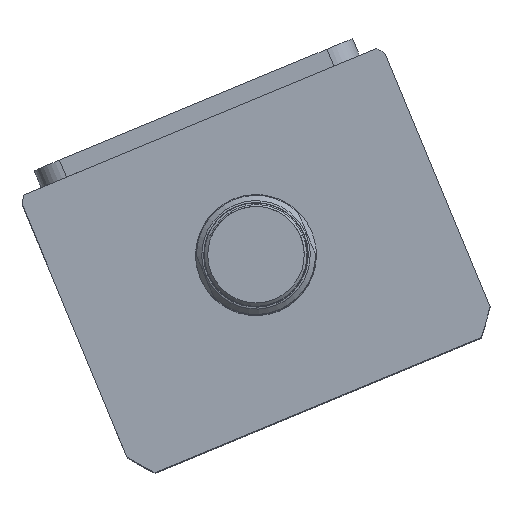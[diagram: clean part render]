
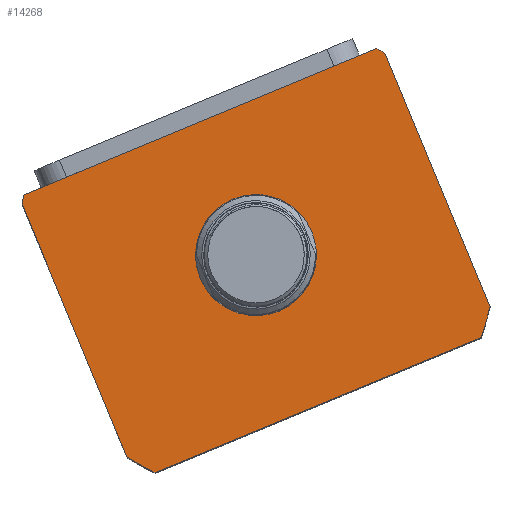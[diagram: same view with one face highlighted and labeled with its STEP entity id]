
A CAD part, top view. The second image highlights one B-rep face of the part: STEP entity #14268.
In plain terms, the highlighted planar face has unit normal (0, 0, 1) as drawn and (0, 0, -1) by its records, which use the part's own axes.
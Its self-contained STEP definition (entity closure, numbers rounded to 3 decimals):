
#179 = CIRCLE ( 'NONE', #23450, 17.5 ) ;
#397 = DIRECTION ( 'NONE',  ( 0., 0., 1. ) ) ;
#823 = DIRECTION ( 'NONE',  ( 0., 0., 1. ) ) ;
#873 = DIRECTION ( 'NONE',  ( 1., 0., 0. ) ) ;
#1564 = EDGE_CURVE ( 'NONE', #27111, #10542, #20604, .T. ) ;
#2498 = EDGE_CURVE ( 'NONE', #24327, #16265, #15159, .T. ) ;
#2775 = EDGE_CURVE ( 'NONE', #25063, #27111, #17525, .T. ) ;
#2797 = CARTESIAN_POINT ( 'NONE',  ( 17.5, 2.5, 0. ) ) ;
#2804 = DIRECTION ( 'NONE',  ( -1., 0., 0. ) ) ;
#2845 = VECTOR ( 'NONE', #24843, 1000. ) ;
#3022 = LINE ( 'NONE', #20268, #19732 ) ;
#4442 = CARTESIAN_POINT ( 'NONE',  ( 0., 2.5, 0. ) ) ;
#4801 = VERTEX_POINT ( 'NONE', #2797 ) ;
#4881 = AXIS2_PLACEMENT_3D ( 'NONE', #24628, #26607, #24810 ) ;
#5182 = CARTESIAN_POINT ( 'NONE',  ( 0., 0., 0. ) ) ;
#5197 = VECTOR ( 'NONE', #21365, 1000. ) ;
#5313 = ORIENTED_EDGE ( 'NONE', *, *, #1564, .F. ) ;
#5325 = CARTESIAN_POINT ( 'NONE',  ( -51.198, -44.5, 0. ) ) ;
#5544 = CARTESIAN_POINT ( 'NONE',  ( -57., -44.5, 0. ) ) ;
#5998 = CARTESIAN_POINT ( 'NONE',  ( 0., 2.5, 0. ) ) ;
#6027 = CARTESIAN_POINT ( 'NONE',  ( -55.374, 44.5, 0. ) ) ;
#6171 = VERTEX_POINT ( 'NONE', #6027 ) ;
#6172 = CARTESIAN_POINT ( 'NONE',  ( -57., 44.5, 0. ) ) ;
#6661 = DIRECTION ( 'NONE',  ( 1., 0., 0. ) ) ;
#6743 = EDGE_CURVE ( 'NONE', #6171, #11580, #21518, .T. ) ;
#7197 = EDGE_CURVE ( 'NONE', #11580, #22081, #10958, .T. ) ;
#7543 = CIRCLE ( 'NONE', #10028, 17.5 ) ;
#7765 = CARTESIAN_POINT ( 'NONE',  ( 55.374, 44.5, 0. ) ) ;
#8165 = DIRECTION ( 'NONE',  ( 1., 0., 0. ) ) ;
#9406 = AXIS2_PLACEMENT_3D ( 'NONE', #22632, #9620, #24752 ) ;
#9620 = DIRECTION ( 'NONE',  ( 0., 0., 1. ) ) ;
#10028 = AXIS2_PLACEMENT_3D ( 'NONE', #5998, #21190, #8165 ) ;
#10055 = ORIENTED_EDGE ( 'NONE', *, *, #6743, .F. ) ;
#10407 = ORIENTED_EDGE ( 'NONE', *, *, #15075, .T. ) ;
#10542 = VERTEX_POINT ( 'NONE', #7765 ) ;
#10783 = CARTESIAN_POINT ( 'NONE',  ( 51.198, -44.5, 0. ) ) ;
#10875 = EDGE_LOOP ( 'NONE', ( #14177, #10407 ) ) ;
#10883 = EDGE_CURVE ( 'NONE', #16265, #25063, #13420, .T. ) ;
#10894 = VERTEX_POINT ( 'NONE', #18319 ) ;
#10958 = LINE ( 'NONE', #6172, #5197 ) ;
#11532 = EDGE_LOOP ( 'NONE', ( #5313, #28105, #26404, #24919, #23257, #25255, #10055, #22951 ) ) ;
#11580 = VERTEX_POINT ( 'NONE', #22517 ) ;
#13420 = CIRCLE ( 'NONE', #9406, 69.5 ) ;
#13528 = CARTESIAN_POINT ( 'NONE',  ( 0., 2.5, 0. ) ) ;
#13995 = DIRECTION ( 'NONE',  ( 0., 0., 1. ) ) ;
#14177 = ORIENTED_EDGE ( 'NONE', *, *, #19314, .T. ) ;
#14268 = ADVANCED_FACE ( 'NONE', ( #25142, #20161 ), #26842, .F. ) ;
#14654 = AXIS2_PLACEMENT_3D ( 'NONE', #13528, #397, #15744 ) ;
#15075 = EDGE_CURVE ( 'NONE', #10894, #4801, #7543, .T. ) ;
#15159 = LINE ( 'NONE', #5544, #2845 ) ;
#15314 = CARTESIAN_POINT ( 'NONE',  ( 57., -37.265, 0. ) ) ;
#15744 = DIRECTION ( 'NONE',  ( 1., 0., 0. ) ) ;
#16170 = DIRECTION ( 'NONE',  ( 1., 0., 0. ) ) ;
#16265 = VERTEX_POINT ( 'NONE', #10783 ) ;
#17525 = LINE ( 'NONE', #27644, #22596 ) ;
#17754 = EDGE_CURVE ( 'NONE', #10542, #6171, #3022, .T. ) ;
#18319 = CARTESIAN_POINT ( 'NONE',  ( -17.5, 2.5, 0. ) ) ;
#18439 = AXIS2_PLACEMENT_3D ( 'NONE', #5182, #823, #16170 ) ;
#19314 = EDGE_CURVE ( 'NONE', #4801, #10894, #179, .T. ) ;
#19676 = DIRECTION ( 'NONE',  ( 0., 0., 1. ) ) ;
#19732 = VECTOR ( 'NONE', #2804, 1000. ) ;
#20161 = FACE_OUTER_BOUND ( 'NONE', #11532, .T. ) ;
#20268 = CARTESIAN_POINT ( 'NONE',  ( -57., 44.5, 0. ) ) ;
#20604 = CIRCLE ( 'NONE', #4881, 69.5 ) ;
#21190 = DIRECTION ( 'NONE',  ( 0., 0., 1. ) ) ;
#21365 = DIRECTION ( 'NONE',  ( 0., -1., 0. ) ) ;
#21518 = CIRCLE ( 'NONE', #24419, 69.5 ) ;
#22081 = VERTEX_POINT ( 'NONE', #22977 ) ;
#22517 = CARTESIAN_POINT ( 'NONE',  ( -57., 42.265, 0. ) ) ;
#22596 = VECTOR ( 'NONE', #25464, 1000. ) ;
#22632 = CARTESIAN_POINT ( 'NONE',  ( 0., 2.5, 0. ) ) ;
#22951 = ORIENTED_EDGE ( 'NONE', *, *, #17754, .F. ) ;
#22977 = CARTESIAN_POINT ( 'NONE',  ( -57., -37.265, 0. ) ) ;
#23257 = ORIENTED_EDGE ( 'NONE', *, *, #27188, .F. ) ;
#23450 = AXIS2_PLACEMENT_3D ( 'NONE', #4442, #19676, #6661 ) ;
#23536 = CIRCLE ( 'NONE', #14654, 69.5 ) ;
#24076 = CARTESIAN_POINT ( 'NONE',  ( 57., 42.265, 0. ) ) ;
#24327 = VERTEX_POINT ( 'NONE', #5325 ) ;
#24419 = AXIS2_PLACEMENT_3D ( 'NONE', #26891, #13995, #873 ) ;
#24628 = CARTESIAN_POINT ( 'NONE',  ( 0., 2.5, 0. ) ) ;
#24752 = DIRECTION ( 'NONE',  ( 1., 0., 0. ) ) ;
#24810 = DIRECTION ( 'NONE',  ( 1., 0., 0. ) ) ;
#24843 = DIRECTION ( 'NONE',  ( 1., 0., 0. ) ) ;
#24919 = ORIENTED_EDGE ( 'NONE', *, *, #2498, .F. ) ;
#25063 = VERTEX_POINT ( 'NONE', #15314 ) ;
#25142 = FACE_BOUND ( 'NONE', #10875, .T. ) ;
#25255 = ORIENTED_EDGE ( 'NONE', *, *, #7197, .F. ) ;
#25464 = DIRECTION ( 'NONE',  ( 0., 1., 0. ) ) ;
#26404 = ORIENTED_EDGE ( 'NONE', *, *, #10883, .F. ) ;
#26607 = DIRECTION ( 'NONE',  ( 0., 0., 1. ) ) ;
#26842 = PLANE ( 'NONE',  #18439 ) ;
#26891 = CARTESIAN_POINT ( 'NONE',  ( 0., 2.5, 0. ) ) ;
#27111 = VERTEX_POINT ( 'NONE', #24076 ) ;
#27188 = EDGE_CURVE ( 'NONE', #22081, #24327, #23536, .T. ) ;
#27644 = CARTESIAN_POINT ( 'NONE',  ( 57., 44.5, 0. ) ) ;
#28105 = ORIENTED_EDGE ( 'NONE', *, *, #2775, .F. ) ;
